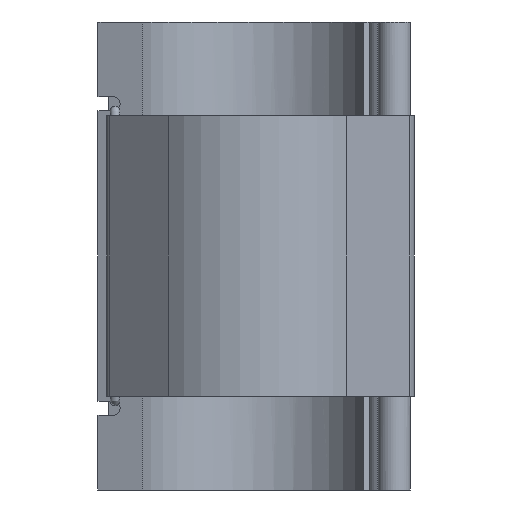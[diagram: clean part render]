
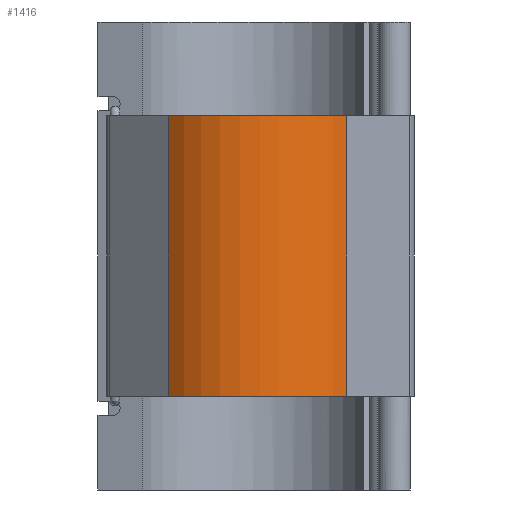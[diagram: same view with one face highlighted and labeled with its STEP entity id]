
A CAD part, front view. The second image highlights one B-rep face of the part: STEP entity #1416.
In plain terms, the highlighted cylindrical face has radius 45.681 mm (diameter 91.361 mm), a partial arc.
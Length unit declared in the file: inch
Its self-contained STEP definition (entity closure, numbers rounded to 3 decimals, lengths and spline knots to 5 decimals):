
#121=FACE_OUTER_BOUND('',#205,.T.);
#205=EDGE_LOOP('',(#1172,#1173,#1174,#1175));
#278=CIRCLE('',#1490,1.79844);
#287=CIRCLE('',#1500,1.79844);
#441=LINE('',#2364,#557);
#442=LINE('',#2366,#558);
#557=VECTOR('',#1895,0.3937);
#558=VECTOR('',#1898,0.3937);
#604=VERTEX_POINT('',#2125);
#605=VERTEX_POINT('',#2127);
#620=VERTEX_POINT('',#2159);
#621=VERTEX_POINT('',#2161);
#742=EDGE_CURVE('',#604,#605,#278,.T.);
#759=EDGE_CURVE('',#620,#621,#287,.T.);
#859=EDGE_CURVE('',#604,#621,#441,.T.);
#860=EDGE_CURVE('',#605,#620,#442,.T.);
#1172=ORIENTED_EDGE('',*,*,#859,.T.);
#1173=ORIENTED_EDGE('',*,*,#759,.F.);
#1174=ORIENTED_EDGE('',*,*,#860,.F.);
#1175=ORIENTED_EDGE('',*,*,#742,.F.);
#1357=CYLINDRICAL_SURFACE('',#1562,1.79844);
#1416=ADVANCED_FACE('',(#121),#1357,.T.);
#1490=AXIS2_PLACEMENT_3D('',#2128,#1674,#1675);
#1500=AXIS2_PLACEMENT_3D('',#2162,#1702,#1703);
#1562=AXIS2_PLACEMENT_3D('',#2365,#1896,#1897);
#1674=DIRECTION('center_axis',(0.,0.,-1.));
#1675=DIRECTION('ref_axis',(0.997,0.079,0.));
#1702=DIRECTION('center_axis',(0.,0.,1.));
#1703=DIRECTION('ref_axis',(0.997,0.079,0.));
#1895=DIRECTION('',(0.,0.,1.));
#1896=DIRECTION('center_axis',(0.,0.,1.));
#1897=DIRECTION('ref_axis',(0.997,0.079,0.));
#1898=DIRECTION('',(0.,0.,1.));
#2125=CARTESIAN_POINT('',(1.38558,-1.14655,-2.079));
#2127=CARTESIAN_POINT('',(-1.2546,-1.28856,-2.079));
#2128=CARTESIAN_POINT('Origin',(0.,0.,-2.079));
#2159=CARTESIAN_POINT('',(-1.2546,-1.28856,2.079));
#2161=CARTESIAN_POINT('',(1.38558,-1.14655,2.079));
#2162=CARTESIAN_POINT('Origin',(0.,0.,2.079));
#2364=CARTESIAN_POINT('',(1.38558,-1.14655,0.));
#2365=CARTESIAN_POINT('Origin',(0.,0.,0.));
#2366=CARTESIAN_POINT('',(-1.2546,-1.28856,0.));
